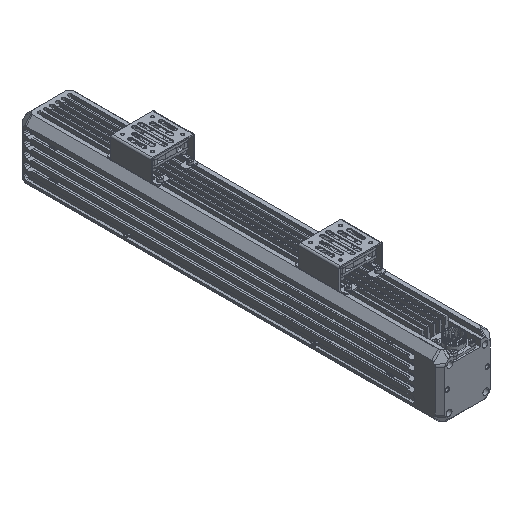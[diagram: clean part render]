
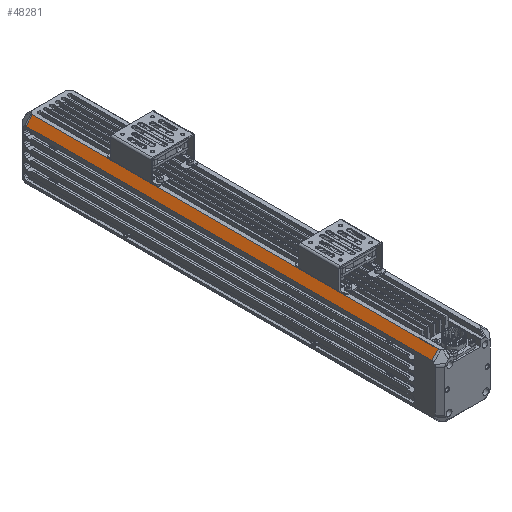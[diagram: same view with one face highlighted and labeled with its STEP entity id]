
A CAD part, isometric view. The second image highlights one B-rep face of the part: STEP entity #48281.
In plain terms, the highlighted planar face has unit normal (-0.707, 0, 0.707).
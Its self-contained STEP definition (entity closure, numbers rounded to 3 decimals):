
#3036=DIRECTION('',(0.,1.,0.));
#3037=VECTOR('',#3036,405.758);
#3038=CARTESIAN_POINT('',(-22.,-200.,0.));
#3039=LINE('',#3038,#3037);
#3044=CARTESIAN_POINT('',(-22.,205.758,0.));
#3812=DIRECTION('',(-0.707,0.,-0.707));
#3813=VECTOR('',#3812,0.083);
#3814=CARTESIAN_POINT('',(-22.,-200.,0.));
#3815=LINE('',#3814,#3813);
#4360=DIRECTION('',(-0.707,0.,-0.707));
#4361=VECTOR('',#4360,9.817);
#4362=CARTESIAN_POINT('',(-22.059,-225.758,
-0.059));
#4363=LINE('',#4362,#4361);
#4376=CARTESIAN_POINT('',(-29.,-225.758,-7.));
#4382=DIRECTION('',(0.,1.,0.));
#4383=VECTOR('',#4382,431.515);
#4384=CARTESIAN_POINT('',(-29.,-225.758,-7.));
#4385=LINE('',#4384,#4383);
#4390=DIRECTION('',(0.,-1.,0.));
#4391=VECTOR('',#4390,25.758);
#4392=CARTESIAN_POINT('',(-22.059,-200.,-0.059));
#4393=LINE('',#4392,#4391);
#4788=CARTESIAN_POINT('',(-29.,205.758,-7.));
#13083=DIRECTION('',(0.707,0.,0.707));
#13084=VECTOR('',#13083,9.899);
#13085=CARTESIAN_POINT('',(-29.,205.758,-7.));
#13086=LINE('',#13085,#13084);
#33765=VERTEX_POINT('',#4788);
#33766=VERTEX_POINT('',#3044);
#34458=VERTEX_POINT('',#4376);
#34526=CARTESIAN_POINT('',(-22.059,-225.758,
-0.059));
#34527=VERTEX_POINT('',#34526);
#39981=CARTESIAN_POINT('',(-22.,-200.,0.));
#39982=VERTEX_POINT('',#39981);
#40086=CARTESIAN_POINT('',(-22.059,-200.,-0.059));
#40088=VERTEX_POINT('',#40086);
#48265=CARTESIAN_POINT('',(-29.,-200.,-7.));
#48266=DIRECTION('',(-0.707,0.,0.707));
#48267=DIRECTION('',(0.707,0.,0.707));
#48268=AXIS2_PLACEMENT_3D('',#48265,#48266,#48267);
#48269=PLANE('',#48268);
#48270=ORIENTED_EDGE('',*,*,#47074,.T.);
#48272=ORIENTED_EDGE('',*,*,#48271,.T.);
#48273=ORIENTED_EDGE('',*,*,#48248,.T.);
#48275=ORIENTED_EDGE('',*,*,#48274,.T.);
#48277=ORIENTED_EDGE('',*,*,#48276,.T.);
#48278=ORIENTED_EDGE('',*,*,#46162,.F.);
#48279=EDGE_LOOP('',(#48270,#48272,#48273,#48275,#48277,#48278));
#48280=FACE_OUTER_BOUND('',#48279,.F.);
#46162=EDGE_CURVE('',#39982,#33766,#3039,.T.);
#47074=EDGE_CURVE('',#39982,#40088,#3815,.T.);
#48248=EDGE_CURVE('',#34527,#34458,#4363,.T.);
#48271=EDGE_CURVE('',#40088,#34527,#4393,.T.);
#48274=EDGE_CURVE('',#34458,#33765,#4385,.T.);
#48276=EDGE_CURVE('',#33765,#33766,#13086,.T.);
#48281=ADVANCED_FACE('',(#48280),#48269,.T.);
